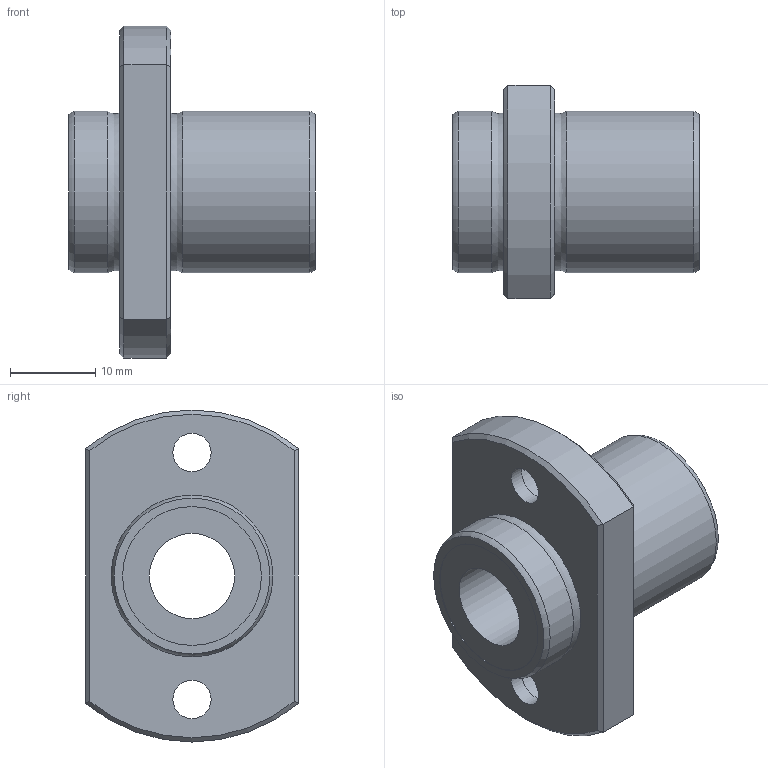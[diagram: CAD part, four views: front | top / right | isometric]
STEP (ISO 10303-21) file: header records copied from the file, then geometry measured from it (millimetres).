
FILE_DESCRIPTION((''),'2;1');
FILE_NAME('D:\製品 (図面)\カタログ用3D\リニアベアリング関連\STEP形式\LFTB\LFTB10.stp','2010-06-04T09:22:44',('Tsuchiya'),(''),'Autodesk Inventor 10','Autodesk Inventor 10','');
FILE_SCHEMA(('AUTOMOTIVE_DESIGN { 1 0 10303 214 1 1 1 1 }'));
Length unit declared in the file: millimetre
Products named in the file (1): LFTB10
Bounding box: 29 x 25 x 39 mm (x, y, z)
Volume: 9072.4 mm3; surface area: 4752.9 mm2
Topology: 1 solids, 1 shells, 33 faces, 63 edges, 38 vertices
Faces by surface type: plane 12, bspline 8, cylinder 7, cone 4, torus 2
Full cylindrical faces by diameter (mm): 10 x1, 16.3 x2, 19 x2
Entity records: 977 total; most frequent: CARTESIAN_POINT 344, DIRECTION 124, ORIENTED_EDGE 100, EDGE_LOOP 58, AXIS2_PLACEMENT_3D 56, EDGE_CURVE 50, VERTEX_POINT 38, FACE_OUTER_BOUND 33
